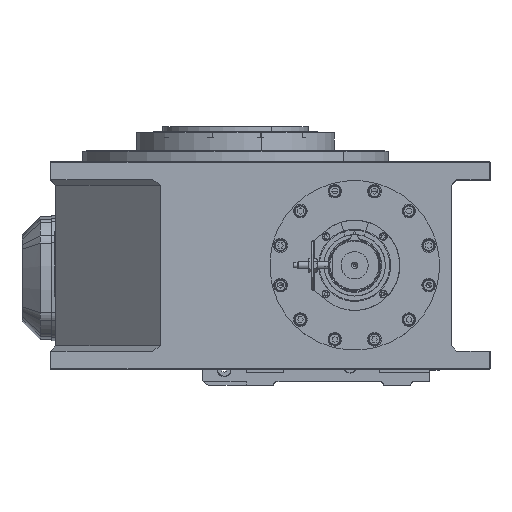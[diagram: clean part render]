
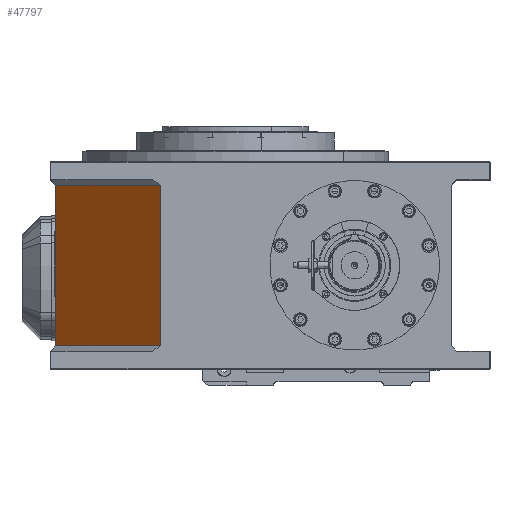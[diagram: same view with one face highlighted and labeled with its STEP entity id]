
A CAD part, top view. The second image highlights one B-rep face of the part: STEP entity #47797.
In plain terms, the highlighted planar face has unit normal (-0.707, 0, 0.707).
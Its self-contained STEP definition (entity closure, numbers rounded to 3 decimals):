
#797 = VERTEX_POINT ( 'NONE', #67378 ) ;
#5084 = CARTESIAN_POINT ( 'NONE',  ( -199., 204., 83.259 ) ) ;
#6215 = ORIENTED_EDGE ( 'NONE', *, *, #49340, .F. ) ;
#6816 = EDGE_CURVE ( 'NONE', #14999, #797, #59338, .T. ) ;
#8820 = DIRECTION ( 'NONE',  ( 0., -1., 0. ) ) ;
#10271 = EDGE_CURVE ( 'NONE', #19224, #14999, #41593, .T. ) ;
#10668 = EDGE_LOOP ( 'NONE', ( #6215, #44823, #37616, #19649 ) ) ;
#11981 = DIRECTION ( 'NONE',  ( -0.707, 0., -0.707 ) ) ;
#12845 = VECTOR ( 'NONE', #50185, 1000. ) ;
#14999 = VERTEX_POINT ( 'NONE', #19705 ) ;
#16443 = CARTESIAN_POINT ( 'NONE',  ( -199., 204., 83.259 ) ) ;
#16497 = VECTOR ( 'NONE', #11981, 1000. ) ;
#19224 = VERTEX_POINT ( 'NONE', #16443 ) ;
#19649 = ORIENTED_EDGE ( 'NONE', *, *, #6816, .T. ) ;
#19705 = CARTESIAN_POINT ( 'NONE',  ( -199., 26., 83.259 ) ) ;
#19958 = DIRECTION ( 'NONE',  ( -0.707, 0., -0.707 ) ) ;
#23918 = LINE ( 'NONE', #57558, #12845 ) ;
#29574 = VECTOR ( 'NONE', #8820, 1000. ) ;
#37616 = ORIENTED_EDGE ( 'NONE', *, *, #10271, .T. ) ;
#38968 = FACE_OUTER_BOUND ( 'NONE', #10668, .T. ) ;
#41593 = LINE ( 'NONE', #48891, #29574 ) ;
#42813 = AXIS2_PLACEMENT_3D ( 'NONE', #52766, #78961, #19958 ) ;
#44823 = ORIENTED_EDGE ( 'NONE', *, *, #77304, .T. ) ;
#45187 = LINE ( 'NONE', #5084, #16497 ) ;
#47797 = ADVANCED_FACE ( 'NONE', ( #38968 ), #51920, .F. ) ;
#48891 = CARTESIAN_POINT ( 'NONE',  ( -199., 210., 83.259 ) ) ;
#49340 = EDGE_CURVE ( 'NONE', #56779, #797, #23918, .T. ) ;
#50185 = DIRECTION ( 'NONE',  ( 0., -1., 0. ) ) ;
#51920 = PLANE ( 'NONE',  #42813 ) ;
#52766 = CARTESIAN_POINT ( 'NONE',  ( -83.259, 210., 199. ) ) ;
#56779 = VERTEX_POINT ( 'NONE', #79673 ) ;
#57558 = CARTESIAN_POINT ( 'NONE',  ( -83.259, 210., 199. ) ) ;
#59338 = LINE ( 'NONE', #83435, #66906 ) ;
#66906 = VECTOR ( 'NONE', #83859, 1000. ) ;
#67378 = CARTESIAN_POINT ( 'NONE',  ( -83.259, 26., 199. ) ) ;
#77304 = EDGE_CURVE ( 'NONE', #56779, #19224, #45187, .T. ) ;
#78961 = DIRECTION ( 'NONE',  ( 0.707, 0., -0.707 ) ) ;
#79673 = CARTESIAN_POINT ( 'NONE',  ( -83.259, 204., 199. ) ) ;
#83435 = CARTESIAN_POINT ( 'NONE',  ( -83.259, 26., 199. ) ) ;
#83859 = DIRECTION ( 'NONE',  ( 0.707, 0., 0.707 ) ) ;
